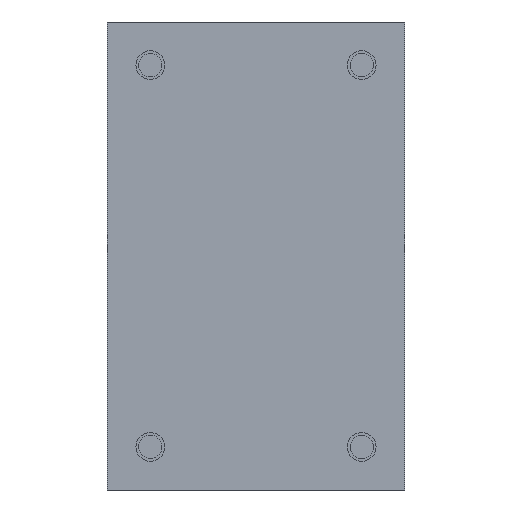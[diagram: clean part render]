
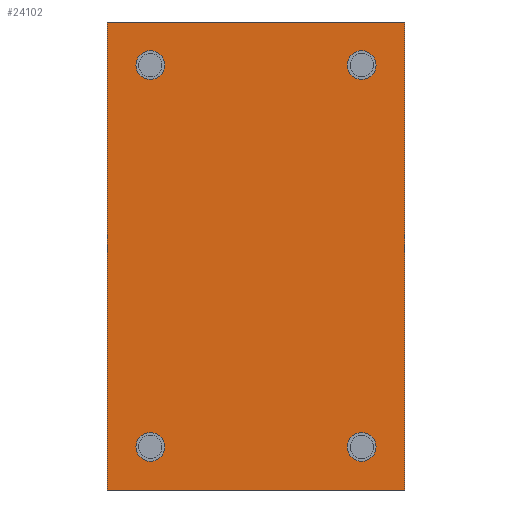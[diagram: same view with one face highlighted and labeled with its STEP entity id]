
A CAD part, front view. The second image highlights one B-rep face of the part: STEP entity #24102.
In plain terms, the highlighted planar face has unit normal (0, -1, 0).
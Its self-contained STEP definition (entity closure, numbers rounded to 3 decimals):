
#86 = CARTESIAN_POINT ( 'NONE',  ( -18.415, 0., 28.956 ) ) ;
#302 = VECTOR ( 'NONE', #2935, 1000. ) ;
#404 = FACE_BOUND ( 'NONE', #1872, .T. ) ;
#417 = EDGE_CURVE ( 'NONE', #3894, #1143, #2802, .T. ) ;
#619 = AXIS2_PLACEMENT_3D ( 'NONE', #19909, #3709, #19524 ) ;
#916 = VECTOR ( 'NONE', #16299, 1000. ) ;
#1001 = EDGE_CURVE ( 'NONE', #13113, #20259, #5712, .T. ) ;
#1143 = VERTEX_POINT ( 'NONE', #18589 ) ;
#1843 = EDGE_CURVE ( 'NONE', #24522, #17681, #2317, .T. ) ;
#1872 = EDGE_LOOP ( 'NONE', ( #10904, #4445 ) ) ;
#2259 = EDGE_CURVE ( 'NONE', #10257, #15030, #23457, .T. ) ;
#2266 = DIRECTION ( 'NONE',  ( 0., -1., 0. ) ) ;
#2317 = CIRCLE ( 'NONE', #619, 1.778 ) ;
#2372 = CARTESIAN_POINT ( 'NONE',  ( -13.081, 0., 25.4 ) ) ;
#2802 = LINE ( 'NONE', #8840, #23072 ) ;
#2864 = CARTESIAN_POINT ( 'NONE',  ( 13.081, 0., 23.622 ) ) ;
#2916 = AXIS2_PLACEMENT_3D ( 'NONE', #2864, #17078, #19192 ) ;
#2935 = DIRECTION ( 'NONE',  ( 0., 0., -1. ) ) ;
#2968 = CARTESIAN_POINT ( 'NONE',  ( 13.081, 0., -23.622 ) ) ;
#3709 = DIRECTION ( 'NONE',  ( 0., -1., 0. ) ) ;
#3894 = VERTEX_POINT ( 'NONE', #10487 ) ;
#4076 = AXIS2_PLACEMENT_3D ( 'NONE', #20326, #2266, #22448 ) ;
#4401 = CARTESIAN_POINT ( 'NONE',  ( 13.081, 0., -23.622 ) ) ;
#4428 = AXIS2_PLACEMENT_3D ( 'NONE', #11593, #9368, #13442 ) ;
#4445 = ORIENTED_EDGE ( 'NONE', *, *, #17572, .F. ) ;
#5599 = EDGE_LOOP ( 'NONE', ( #22543, #7682 ) ) ;
#5712 = CIRCLE ( 'NONE', #15867, 1.778 ) ;
#5980 = EDGE_LOOP ( 'NONE', ( #9008, #7812 ) ) ;
#6486 = FACE_OUTER_BOUND ( 'NONE', #22935, .T. ) ;
#6764 = DIRECTION ( 'NONE',  ( 0., 0., -1. ) ) ;
#7044 = DIRECTION ( 'NONE',  ( 0., 0., -1. ) ) ;
#7219 = CIRCLE ( 'NONE', #21929, 1.778 ) ;
#7362 = VECTOR ( 'NONE', #11675, 1000. ) ;
#7682 = ORIENTED_EDGE ( 'NONE', *, *, #1843, .F. ) ;
#7812 = ORIENTED_EDGE ( 'NONE', *, *, #17080, .F. ) ;
#8584 = DIRECTION ( 'NONE',  ( 1., 0., 0. ) ) ;
#8840 = CARTESIAN_POINT ( 'NONE',  ( -18.415, 0., -28.956 ) ) ;
#9008 = ORIENTED_EDGE ( 'NONE', *, *, #1001, .F. ) ;
#9240 = ORIENTED_EDGE ( 'NONE', *, *, #21950, .F. ) ;
#9350 = LINE ( 'NONE', #10925, #302 ) ;
#9368 = DIRECTION ( 'NONE',  ( 0., -1., 0. ) ) ;
#9690 = CARTESIAN_POINT ( 'NONE',  ( 18.415, 0., 28.956 ) ) ;
#10257 = VERTEX_POINT ( 'NONE', #17310 ) ;
#10487 = CARTESIAN_POINT ( 'NONE',  ( -18.415, 0., -28.956 ) ) ;
#10527 = EDGE_LOOP ( 'NONE', ( #16189, #9240 ) ) ;
#10770 = CARTESIAN_POINT ( 'NONE',  ( 13.081, 0., 25.4 ) ) ;
#10800 = FACE_BOUND ( 'NONE', #5599, .T. ) ;
#10904 = ORIENTED_EDGE ( 'NONE', *, *, #13367, .F. ) ;
#10925 = CARTESIAN_POINT ( 'NONE',  ( 18.415, 0., 28.956 ) ) ;
#11181 = DIRECTION ( 'NONE',  ( 1., 0., 0. ) ) ;
#11593 = CARTESIAN_POINT ( 'NONE',  ( -13.081, 0., -23.622 ) ) ;
#11675 = DIRECTION ( 'NONE',  ( 1., 0., 0. ) ) ;
#11742 = AXIS2_PLACEMENT_3D ( 'NONE', #15804, #24398, #18153 ) ;
#12133 = DIRECTION ( 'NONE',  ( 0., -1., 0. ) ) ;
#12174 = CIRCLE ( 'NONE', #11742, 1.778 ) ;
#12398 = AXIS2_PLACEMENT_3D ( 'NONE', #18595, #20585, #8584 ) ;
#12537 = FACE_BOUND ( 'NONE', #5980, .T. ) ;
#13113 = VERTEX_POINT ( 'NONE', #25121 ) ;
#13367 = EDGE_CURVE ( 'NONE', #22693, #19033, #24698, .T. ) ;
#13442 = DIRECTION ( 'NONE',  ( 0., 0., -1. ) ) ;
#13870 = EDGE_CURVE ( 'NONE', #10257, #3894, #23846, .T. ) ;
#14524 = DIRECTION ( 'NONE',  ( 0., -1., 0. ) ) ;
#15030 = VERTEX_POINT ( 'NONE', #9690 ) ;
#15284 = EDGE_CURVE ( 'NONE', #17681, #24522, #7219, .T. ) ;
#15804 = CARTESIAN_POINT ( 'NONE',  ( -13.081, 0., -23.622 ) ) ;
#15867 = AXIS2_PLACEMENT_3D ( 'NONE', #4401, #12133, #18182 ) ;
#16094 = ORIENTED_EDGE ( 'NONE', *, *, #2259, .F. ) ;
#16125 = EDGE_CURVE ( 'NONE', #23781, #17054, #16598, .T. ) ;
#16189 = ORIENTED_EDGE ( 'NONE', *, *, #16125, .F. ) ;
#16299 = DIRECTION ( 'NONE',  ( 0., 0., -1. ) ) ;
#16312 = AXIS2_PLACEMENT_3D ( 'NONE', #2968, #14524, #6764 ) ;
#16598 = CIRCLE ( 'NONE', #4428, 1.778 ) ;
#17054 = VERTEX_POINT ( 'NONE', #22603 ) ;
#17058 = DIRECTION ( 'NONE',  ( 0., -1., 0. ) ) ;
#17078 = DIRECTION ( 'NONE',  ( 0., -1., 0. ) ) ;
#17080 = EDGE_CURVE ( 'NONE', #20259, #13113, #24340, .T. ) ;
#17310 = CARTESIAN_POINT ( 'NONE',  ( -18.415, 0., 28.956 ) ) ;
#17572 = EDGE_CURVE ( 'NONE', #19033, #22693, #17584, .T. ) ;
#17584 = CIRCLE ( 'NONE', #2916, 1.778 ) ;
#17681 = VERTEX_POINT ( 'NONE', #25538 ) ;
#18153 = DIRECTION ( 'NONE',  ( 0., 0., -1. ) ) ;
#18182 = DIRECTION ( 'NONE',  ( 0., 0., -1. ) ) ;
#18589 = CARTESIAN_POINT ( 'NONE',  ( 18.415, 0., -28.956 ) ) ;
#18595 = CARTESIAN_POINT ( 'NONE',  ( -18.415, 0., 28.956 ) ) ;
#18812 = ORIENTED_EDGE ( 'NONE', *, *, #13870, .T. ) ;
#18861 = FACE_BOUND ( 'NONE', #10527, .T. ) ;
#19033 = VERTEX_POINT ( 'NONE', #10770 ) ;
#19192 = DIRECTION ( 'NONE',  ( 0., 0., -1. ) ) ;
#19524 = DIRECTION ( 'NONE',  ( 0., 0., -1. ) ) ;
#19909 = CARTESIAN_POINT ( 'NONE',  ( -13.081, 0., 23.622 ) ) ;
#20259 = VERTEX_POINT ( 'NONE', #22653 ) ;
#20326 = CARTESIAN_POINT ( 'NONE',  ( 13.081, 0., 23.622 ) ) ;
#20374 = CARTESIAN_POINT ( 'NONE',  ( 13.081, 0., 21.844 ) ) ;
#20585 = DIRECTION ( 'NONE',  ( 0., 1., 0. ) ) ;
#21837 = CARTESIAN_POINT ( 'NONE',  ( -18.415, 0., 28.956 ) ) ;
#21929 = AXIS2_PLACEMENT_3D ( 'NONE', #25378, #17058, #7044 ) ;
#21950 = EDGE_CURVE ( 'NONE', #17054, #23781, #12174, .T. ) ;
#22448 = DIRECTION ( 'NONE',  ( 0., 0., -1. ) ) ;
#22543 = ORIENTED_EDGE ( 'NONE', *, *, #15284, .F. ) ;
#22603 = CARTESIAN_POINT ( 'NONE',  ( -13.081, 0., -21.844 ) ) ;
#22653 = CARTESIAN_POINT ( 'NONE',  ( 13.081, 0., -21.844 ) ) ;
#22693 = VERTEX_POINT ( 'NONE', #20374 ) ;
#22935 = EDGE_LOOP ( 'NONE', ( #23297, #16094, #18812, #23903 ) ) ;
#23072 = VECTOR ( 'NONE', #11181, 1000. ) ;
#23297 = ORIENTED_EDGE ( 'NONE', *, *, #23477, .F. ) ;
#23457 = LINE ( 'NONE', #21837, #7362 ) ;
#23477 = EDGE_CURVE ( 'NONE', #15030, #1143, #9350, .T. ) ;
#23781 = VERTEX_POINT ( 'NONE', #25787 ) ;
#23846 = LINE ( 'NONE', #86, #916 ) ;
#23903 = ORIENTED_EDGE ( 'NONE', *, *, #417, .T. ) ;
#24102 = ADVANCED_FACE ( 'NONE', ( #10800, #404, #18861, #12537, #6486 ), #24566, .F. ) ;
#24340 = CIRCLE ( 'NONE', #16312, 1.778 ) ;
#24398 = DIRECTION ( 'NONE',  ( 0., -1., 0. ) ) ;
#24522 = VERTEX_POINT ( 'NONE', #2372 ) ;
#24566 = PLANE ( 'NONE',  #12398 ) ;
#24698 = CIRCLE ( 'NONE', #4076, 1.778 ) ;
#25121 = CARTESIAN_POINT ( 'NONE',  ( 13.081, 0., -25.4 ) ) ;
#25378 = CARTESIAN_POINT ( 'NONE',  ( -13.081, 0., 23.622 ) ) ;
#25538 = CARTESIAN_POINT ( 'NONE',  ( -13.081, 0., 21.844 ) ) ;
#25787 = CARTESIAN_POINT ( 'NONE',  ( -13.081, 0., -25.4 ) ) ;
